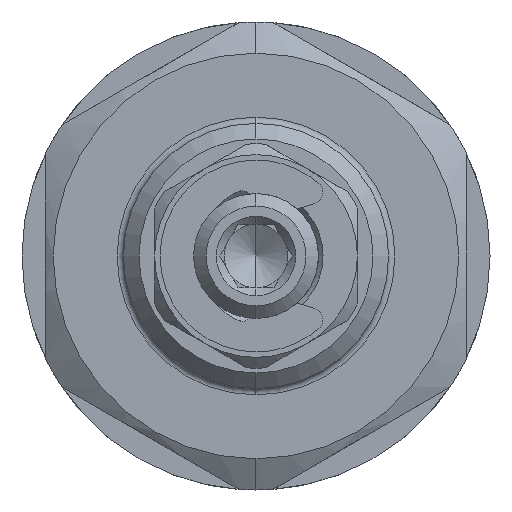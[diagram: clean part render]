
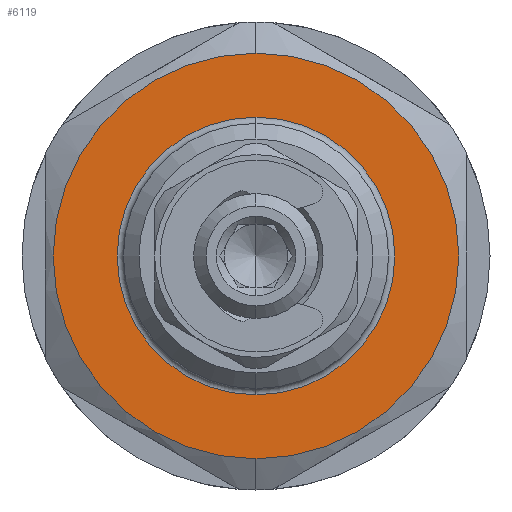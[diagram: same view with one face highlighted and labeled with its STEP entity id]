
A CAD part, left-side view. The second image highlights one B-rep face of the part: STEP entity #6119.
In plain terms, the highlighted planar face has unit normal (-1, 0, 0).
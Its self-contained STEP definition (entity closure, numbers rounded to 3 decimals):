
#953 = AXIS2_PLACEMENT_3D ( 'NONE', #8818, #1494, #10012 ) ;
#1494 = DIRECTION ( 'NONE',  ( -1., 0., 0. ) ) ;
#1607 = ORIENTED_EDGE ( 'NONE', *, *, #2359, .T. ) ;
#1882 = VERTEX_POINT ( 'NONE', #12272 ) ;
#2131 = CIRCLE ( 'NONE', #14123, 13. ) ;
#2359 = EDGE_CURVE ( 'NONE', #1882, #10404, #9821, .T. ) ;
#2875 = CIRCLE ( 'NONE', #10360, 8.9 ) ;
#2920 = CARTESIAN_POINT ( 'NONE',  ( -11.8, 0., -8.9 ) ) ;
#2995 = EDGE_CURVE ( 'NONE', #5194, #3257, #2131, .T. ) ;
#3257 = VERTEX_POINT ( 'NONE', #7465 ) ;
#3430 = ORIENTED_EDGE ( 'NONE', *, *, #4435, .T. ) ;
#4392 = ORIENTED_EDGE ( 'NONE', *, *, #14530, .T. ) ;
#4435 = EDGE_CURVE ( 'NONE', #10404, #1882, #2875, .T. ) ;
#4781 = CIRCLE ( 'NONE', #953, 13. ) ;
#4876 = FACE_OUTER_BOUND ( 'NONE', #12003, .T. ) ;
#4889 = FACE_BOUND ( 'NONE', #5637, .T. ) ;
#5194 = VERTEX_POINT ( 'NONE', #8916 ) ;
#5637 = EDGE_LOOP ( 'NONE', ( #3430, #1607 ) ) ;
#6119 = ADVANCED_FACE ( 'NONE', ( #4889, #4876 ), #15361, .F. ) ;
#6994 = DIRECTION ( 'NONE',  ( 1., 0., 0. ) ) ;
#7245 = AXIS2_PLACEMENT_3D ( 'NONE', #8686, #8760, #8780 ) ;
#7465 = CARTESIAN_POINT ( 'NONE',  ( -11.8, 0., 13. ) ) ;
#7473 = CARTESIAN_POINT ( 'NONE',  ( -11.8, 0., 0. ) ) ;
#7672 = DIRECTION ( 'NONE',  ( -1., 0., 0. ) ) ;
#8420 = DIRECTION ( 'NONE',  ( 0., 0., 1. ) ) ;
#8686 = CARTESIAN_POINT ( 'NONE',  ( -11.8, 0., 0. ) ) ;
#8760 = DIRECTION ( 'NONE',  ( 1., 0., 0. ) ) ;
#8780 = DIRECTION ( 'NONE',  ( 0., 0., -1. ) ) ;
#8818 = CARTESIAN_POINT ( 'NONE',  ( -11.8, 0., 0. ) ) ;
#8916 = CARTESIAN_POINT ( 'NONE',  ( -11.8, 0., -13. ) ) ;
#9821 = CIRCLE ( 'NONE', #7245, 8.9 ) ;
#9982 = AXIS2_PLACEMENT_3D ( 'NONE', #14217, #6994, #15407 ) ;
#10012 = DIRECTION ( 'NONE',  ( 0., 0., 1. ) ) ;
#10360 = AXIS2_PLACEMENT_3D ( 'NONE', #15319, #14788, #14740 ) ;
#10404 = VERTEX_POINT ( 'NONE', #2920 ) ;
#12003 = EDGE_LOOP ( 'NONE', ( #12537, #4392 ) ) ;
#12272 = CARTESIAN_POINT ( 'NONE',  ( -11.8, 0., 8.9 ) ) ;
#12537 = ORIENTED_EDGE ( 'NONE', *, *, #2995, .T. ) ;
#14123 = AXIS2_PLACEMENT_3D ( 'NONE', #7473, #7672, #8420 ) ;
#14217 = CARTESIAN_POINT ( 'NONE',  ( -11.8, 8.5, 0. ) ) ;
#14530 = EDGE_CURVE ( 'NONE', #3257, #5194, #4781, .T. ) ;
#14740 = DIRECTION ( 'NONE',  ( 0., 0., -1. ) ) ;
#14788 = DIRECTION ( 'NONE',  ( 1., 0., 0. ) ) ;
#15319 = CARTESIAN_POINT ( 'NONE',  ( -11.8, 0., 0. ) ) ;
#15361 = PLANE ( 'NONE',  #9982 ) ;
#15407 = DIRECTION ( 'NONE',  ( 0., 0., -1. ) ) ;
